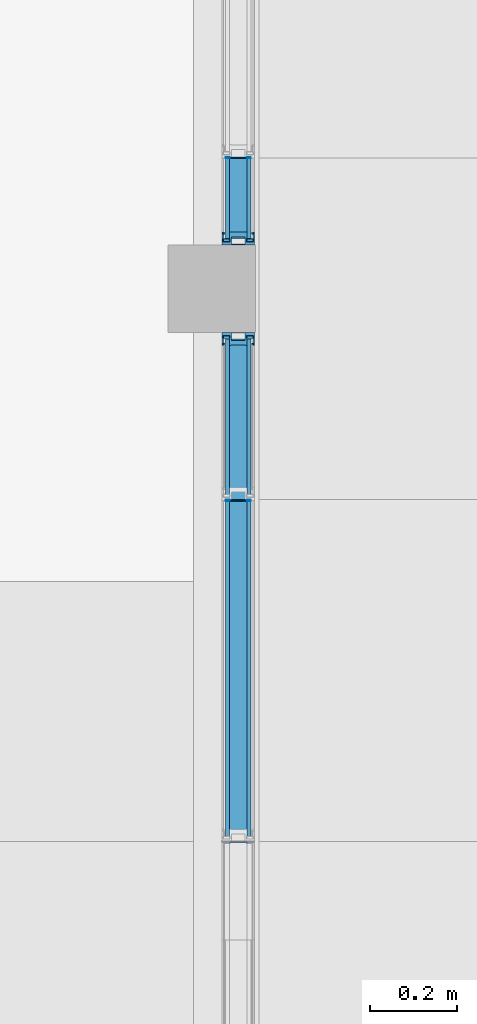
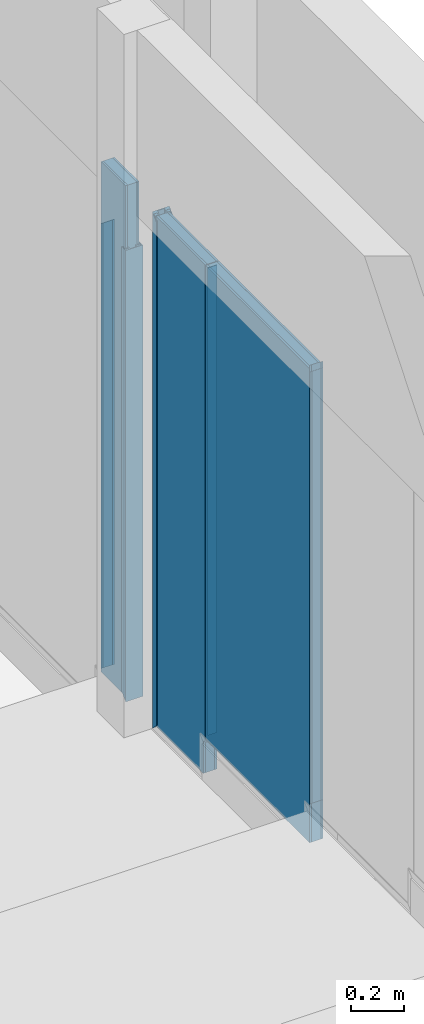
# One storey, part 30 of 65: 16 building element parts, 10 elements without a shape of their own.
"""IFC2X3 building model written with IfcOpenShell, lengths in millimetres."""

from ifc_helpers import new_model, entity, si_unit, converted_unit, derived_unit, money_unit, direction, frame, origin_with_axes, place, context, subcontext, project, spatial, faceted_brep, material, type_object, element, aggregate, save


model = new_model("IFC2X3")

# Units and contexts
model_context = context("Model", 3, precision=0.01, world=origin_with_axes(), true_north=direction((0.0, 1.0)))
body_context = subcontext(model_context, "Body", "Model", "MODEL_VIEW")
ifc_project = project(units=[si_unit("LENGTHUNIT", "METRE", prefix="MILLI"), si_unit("AREAUNIT", "SQUARE_METRE"), si_unit("VOLUMEUNIT", "CUBIC_METRE"), converted_unit("PLANEANGLEUNIT", "DEGREE", entity("IfcPlaneAngleMeasure", 0.0174532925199), si_unit("PLANEANGLEUNIT", "RADIAN"), dimensions=[0, 0, 0, 0, 0, 0, 0]), si_unit("SOLIDANGLEUNIT", "STERADIAN"), money_unit("EUR"), converted_unit("TIMEUNIT", "Year", entity("IfcTimeMeasure", 31556926.0), si_unit("TIMEUNIT", "SECOND"), dimensions=[0, 0, 1, 0, 0, 0, 0]), si_unit("MASSUNIT", "GRAM", prefix="KILO"), si_unit("THERMODYNAMICTEMPERATUREUNIT", "DEGREE_CELSIUS"), si_unit("LUMINOUSINTENSITYUNIT", "LUMEN"), si_unit("ENERGYUNIT", "JOULE", prefix="MEGA"), derived_unit("THERMALCONDUCTANCEUNIT", [(si_unit("POWERUNIT", "WATT"), 1), (si_unit("LENGTHUNIT", "METRE"), -1), (si_unit("THERMODYNAMICTEMPERATUREUNIT", "KELVIN"), -1)]), derived_unit("SPECIFICHEATCAPACITYUNIT", [(si_unit("ENERGYUNIT", "JOULE"), 1), (si_unit("MASSUNIT", "GRAM", prefix="KILO"), -1), (si_unit("THERMODYNAMICTEMPERATUREUNIT", "KELVIN"), -1)]), derived_unit("MASSDENSITYUNIT", [(si_unit("MASSUNIT", "GRAM", prefix="KILO"), 1), (si_unit("VOLUMEUNIT", "CUBIC_METRE"), -1)])], contexts=[model_context])

# Site, building, storey
site_placement = place(None, origin_with_axes())
site = spatial("IfcSite", under=ifc_project, at=site_placement, Name="Puškini 31, Narva", CompositionType="ELEMENT")
building_placement = place(site_placement, origin_with_axes())
building = spatial("IfcBuilding", under=site, at=building_placement, Name="Narva Riigigümnaasium", CompositionType="ELEMENT")
storey_placement = place(building_placement, frame((0.0, 0.0, -1320.0), z_axis=(0.0, 0.0, 1.0), x_axis=(1.0, 0.0, 0.0)))
storey = spatial("IfcBuildingStorey", under=building, at=storey_placement, Name="1.korrus -1.32", CompositionType="ELEMENT", Elevation=-1320.0)

# Curtain wall, plates, building element parts, members
curtain_wall_type = type_object("IfcCurtainWallType", Name="Curtain Wall Type", PredefinedType="NOTDEFINED")
curtain_wall_1_placement = place(storey_placement, frame((30362.9999948, 159591.499992, 330.0), z_axis=(0.0, 0.0, 1.0), x_axis=(1.0, 0.0, 0.0)))
curtain_wall_1 = element("IfcCurtainWall", 1, at=curtain_wall_1_placement, inside=storey, type_object=curtain_wall_type, Name="G-SKLF-03")
plate_type_1 = type_object("IfcPlateType", Name="Siseklaasfassaad - Klaas 780 x 2025 x 10", PredefinedType="CURTAIN_PANEL")
plate_1_placement = place(curtain_wall_1_placement, frame((0.0, 3054.42001235, 1079.99996631), z_axis=(0.0, 0.0, 1.0), x_axis=(0.0, -1.0, 0.0)))
plate_1 = element("IfcPlate", 2, at=plate_1_placement, type_object=plate_type_1, Name="G-SKLF-04-klaas", ObjectType="CURTAIN_PANEL")
ifc_material_1 = material(Name="VKR-05_Klaas")
building_element_part_1_placement = place(plate_1_placement, origin_with_axes())
building_element_part_1 = element("IfcBuildingElementPart", 3, at=building_element_part_1_placement, material=ifc_material_1, Name="VKR-05_Klaas", context=body_context, shape_type="Brep", body=[
    faceted_brep([(-467.579986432, -29.0, 1274.999943), (312.719991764, -29.0, 1274.999943), (312.719991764, -20.0, 1274.999943), (-467.579986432, -20.0, 1274.999943), (-467.579986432, -29.0, -899.999941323), (312.719991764, -29.0, -899.999941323), (312.719991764, -20.0, -899.999941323), (-467.579986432, -20.0, -899.999941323)], [[[0, 1, 2, 3]], [[0, 4, 5, 1]], [[1, 5, 6, 2]], [[3, 2, 6, 7]], [[4, 0, 3, 7]], [[5, 4, 7, 6]]]),
    faceted_brep([(-467.579986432, 20.0, 1274.999943), (312.719991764, 20.0, 1274.999943), (312.719991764, 29.0, 1274.999943), (-467.579986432, 29.0, 1274.999943), (-467.579986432, 20.0, -899.999941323), (312.719991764, 20.0, -899.999941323), (312.719991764, 29.0, -899.999941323), (-467.579986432, 29.0, -899.999941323)], [[[0, 1, 2, 3]], [[0, 4, 5, 1]], [[1, 5, 6, 2]], [[3, 2, 6, 7]], [[4, 0, 3, 7]], [[5, 4, 7, 6]]]),
])
ifc_material_2 = material(Name="VKR-06_Õhkvahe")
building_element_part_2_placement = place(plate_1_placement, origin_with_axes())
building_element_part_2 = element("IfcBuildingElementPart", 4, at=building_element_part_2_placement, material=ifc_material_2, Name="VKR-06_Õhkvahe", context=body_context, shape_type="Brep", body=[
    faceted_brep([(-467.579986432, -20.0, 1274.999943), (312.719991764, -20.0, 1274.999943), (312.719991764, 20.0, 1274.999943), (-467.579986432, 20.0, 1274.999943), (-467.579986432, -20.0, -899.999941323), (312.719991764, -20.0, -899.999941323), (312.719991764, 20.0, -899.999941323), (-467.579986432, 20.0, -899.999941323)], [[[0, 1, 2, 3]], [[0, 4, 5, 1]], [[1, 5, 6, 2]], [[3, 2, 6, 7]], [[4, 0, 3, 7]], [[5, 4, 7, 6]]]),
])
aggregate(plate_1, [building_element_part_1, building_element_part_2])
plate_type_2 = type_object("IfcPlateType", Name="Siseklaasfassaad - Klaas 369 x 2190 x 10", PredefinedType="CURTAIN_PANEL")
plate_2_placement = place(curtain_wall_1_placement, frame((0.0, 3677.50001371, 980.999971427), z_axis=(0.0, 0.0, 1.0), x_axis=(0.0, -1.0, 0.0)))
plate_2 = element("IfcPlate", 5, at=plate_2_placement, type_object=plate_type_2, Name="G-SKLF-05-klaas", ObjectType="CURTAIN_PANEL")
building_element_part_3_placement = place(plate_2_placement, origin_with_axes())
building_element_part_3 = element("IfcBuildingElementPart", 6, at=building_element_part_3_placement, material=ifc_material_1, Name="VKR-05_Klaas", context=body_context, shape_type="Brep", body=[
    faceted_brep([(-216.000071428, -29.0, 1373.99992908), (152.500011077, -29.0, 1373.99992908), (152.500011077, -20.0, 1373.99992908), (-216.000071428, -20.0, 1373.99992908), (-215.999930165, -29.0, -965.999945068), (138.999987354, -29.0, -965.999945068), (138.999987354, -29.0, -815.999964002), (152.500011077, -29.0, -815.999964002), (152.500011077, -20.0, -815.999964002), (138.999987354, -20.0, -815.999964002), (138.999987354, -20.0, -965.999945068), (-215.999930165, -20.0, -965.999945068)], [[[0, 1, 2, 3]], [[0, 4, 5, 6, 7, 1]], [[1, 7, 8, 2]], [[3, 2, 8, 9, 10, 11]], [[4, 0, 3, 11]], [[5, 4, 11, 10]], [[6, 5, 10, 9]], [[7, 6, 9, 8]]]),
    faceted_brep([(-216.000071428, 20.0, 1373.99992908), (152.500011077, 20.0, 1373.99992908), (152.500011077, 29.0, 1373.99992908), (-216.000071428, 29.0, 1373.99992908), (-215.999930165, 20.0, -965.999945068), (138.999987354, 20.0, -965.999945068), (138.999987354, 20.0, -815.999964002), (152.500011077, 20.0, -815.999964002), (152.500011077, 29.0, -815.999964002), (138.999987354, 29.0, -815.999964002), (138.999987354, 29.0, -965.999945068), (-215.999930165, 29.0, -965.999945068)], [[[0, 1, 2, 3]], [[0, 4, 5, 6, 7, 1]], [[1, 7, 8, 2]], [[3, 2, 8, 9, 10, 11]], [[4, 0, 3, 11]], [[5, 4, 11, 10]], [[6, 5, 10, 9]], [[7, 6, 9, 8]]]),
])
building_element_part_4_placement = place(plate_2_placement, origin_with_axes())
building_element_part_4 = element("IfcBuildingElementPart", 7, at=building_element_part_4_placement, material=ifc_material_2, Name="VKR-06_Õhkvahe", context=body_context, shape_type="Brep", body=[
    faceted_brep([(-216.000071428, -20.0, 1373.99992908), (152.500011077, -20.0, 1373.99992908), (152.500011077, 20.0, 1373.99992908), (-216.000071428, 20.0, 1373.99992908), (-215.999930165, -20.0, -965.999945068), (138.999987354, -20.0, -965.999945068), (138.999987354, -20.0, -815.999964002), (152.500011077, -20.0, -815.999964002), (152.500011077, 20.0, -815.999964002), (138.999987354, 20.0, -815.999964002), (138.999987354, 20.0, -965.999945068), (-215.999930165, 20.0, -965.999945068)], [[[0, 1, 2, 3]], [[0, 4, 5, 6, 7, 1]], [[1, 7, 8, 2]], [[3, 2, 8, 9, 10, 11]], [[4, 0, 3, 11]], [[5, 4, 11, 10]], [[6, 5, 10, 9]], [[7, 6, 9, 8]]]),
])
aggregate(plate_2, [building_element_part_3, building_element_part_4])
member_type_1 = type_object("IfcMemberType", Name="Siseklaasfassaad - Raam n2htamatu 3 x 29", PredefinedType="MULLION")
member_1_placement = place(curtain_wall_1_placement, frame((0.0, 2740.5, 329.999979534), z_axis=(0.0, 0.0, 1.0), x_axis=(0.0, -1.0, 0.0)))
member_1 = element("IfcMember", 8, at=member_1_placement, type_object=member_type_1, Name="G-SKLF-69-klaasidevaheline tihend", ObjectType="MULLION")
ifc_material_3 = material(Name="Klaas")
building_element_part_5_placement = place(member_1_placement, origin_with_axes())
building_element_part_5 = element("IfcBuildingElementPart", 9, at=building_element_part_5_placement, material=ifc_material_3, Name="Klaas", context=body_context, shape_type="Brep", body=[
    faceted_brep([(0.0, 29.0064496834, 2039.99993072), (0.0, 29.0064496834, 2009.99991142), (1.50001386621, 29.0064496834, 2009.99991142), (1.50001383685, 29.0064496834, 30.0000170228), (-1.4999861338, 29.0064496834, 30.0000170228), (-1.49998613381, 29.0064496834, 2009.99991145), (0.0, 20.0064497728, 2039.99993072), (0.0, 20.0064497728, 2009.99991142), (1.50001386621, 20.0064497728, 2009.99991142), (1.50001383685, 20.0064497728, 30.0000177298), (-1.4999861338, 20.0064497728, 30.0000177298), (-1.49998613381, 20.0064497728, 2009.99991145)], [[[0, 1, 2, 3, 4, 5]], [[1, 0, 6, 7]], [[8, 2, 1, 7]], [[2, 8, 9, 3]], [[3, 9, 10, 4]], [[11, 5, 4, 10]], [[0, 5, 11, 6]], [[6, 11, 10, 9, 8, 7]]]),
    faceted_brep([(0.0, -19.993550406, 2039.99993072), (0.0, -19.993550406, 2009.99991142), (1.50001386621, -19.993550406, 2009.99991142), (1.50001383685, -19.993550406, 30.0000208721), (-1.4999861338, -19.993550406, 30.0000208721), (-1.49998613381, -19.993550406, 2009.99991145), (0.0, -28.9935503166, 2039.99993072), (0.0, -28.9935503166, 2009.99991142), (1.50001386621, -28.9935503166, 2009.99991142), (1.50001383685, -28.9935503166, 30.0000215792), (-1.4999861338, -28.9935503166, 30.0000215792), (-1.49998613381, -28.9935503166, 2009.99991145)], [[[0, 1, 2, 3, 4, 5]], [[1, 0, 6, 7]], [[8, 2, 1, 7]], [[2, 8, 9, 3]], [[3, 9, 10, 4]], [[11, 5, 4, 10]], [[0, 5, 11, 6]], [[6, 11, 10, 9, 8, 7]]]),
])
building_element_part_6_placement = place(member_1_placement, origin_with_axes())
building_element_part_6 = element("IfcBuildingElementPart", 10, at=building_element_part_6_placement, material=ifc_material_2, Name="VKR-06_Õhkvahe", context=body_context, shape_type="Brep", body=[
    faceted_brep([(0.0, 20.0064496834, 2039.99993072), (0.0, 20.0064496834, 2009.99991142), (1.50001386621, 20.0064496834, 2009.99991142), (1.5000138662, 20.0064496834, 30.0000177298), (-1.4999861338, 20.0064496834, 30.0000177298), (-1.49998613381, 20.0064496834, 2009.99991145), (0.0, -19.9935503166, 2039.99993072), (0.0, -19.9935503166, 2009.99991142), (1.50001386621, -19.9935503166, 2009.99991142), (1.5000138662, -19.9935503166, 30.0000208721), (-1.4999861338, -19.9935503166, 30.0000208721), (-1.49998613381, -19.9935503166, 2009.99991145)], [[[0, 1, 2, 3, 4, 5]], [[1, 0, 6, 7]], [[8, 2, 1, 7]], [[2, 8, 9, 3]], [[3, 9, 10, 4]], [[11, 5, 4, 10]], [[0, 5, 11, 6]], [[6, 11, 10, 9, 8, 7]]]),
])
aggregate(member_1, [building_element_part_5, building_element_part_6])
member_type_2 = type_object("IfcMemberType", Name="3 x 29", PredefinedType="MULLION")
member_2_placement = place(curtain_wall_1_placement, frame((0.0, 3523.5, 165.000007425), z_axis=(0.0, 0.0, 1.0), x_axis=(0.0, -1.0, 0.0)))
member_2 = element("IfcMember", 11, at=member_2_placement, type_object=member_type_2, Name="G-SKLF-05-raam", ObjectType="MULLION")
building_element_part_7_placement = place(member_2_placement, origin_with_axes())
building_element_part_7 = element("IfcBuildingElementPart", 12, at=building_element_part_7_placement, material=ifc_material_3, Name="Klaas", context=body_context, shape_type="Brep", body=[
    faceted_brep([(1.5000138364, 20.0064497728, 30.0000193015), (1.5000138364, 20.0064497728, 2174.99990034), (-1.4999861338, 20.0064497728, 2174.99990034), (-1.4999861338, 20.0064497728, 30.0000193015), (1.5000138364, 29.0064496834, 30.0000193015), (1.5000138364, 29.0064496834, 2174.99990044), (-1.4999861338, 29.0064496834, 2174.99990044), (-1.4999861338, 29.0064496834, 30.0000193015)], [[[0, 1, 2, 3]], [[4, 5, 1, 0]], [[2, 1, 5, 6]], [[3, 2, 6, 7]], [[3, 7, 4, 0]], [[7, 6, 5, 4]]]),
    faceted_brep([(-1.4999861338, -28.9935503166, 30.0000193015), (-1.4999861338, -28.9935503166, 2174.99989983), (-1.4999861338, -19.993550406, 2174.99989993), (-1.4999861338, -19.993550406, 30.0000193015), (1.5000138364, -28.9935503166, 30.0000193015), (1.5000138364, -28.9935503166, 2174.99989983), (1.5000138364, -19.993550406, 2174.99989993), (1.5000138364, -19.993550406, 30.0000193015)], [[[0, 1, 2, 3]], [[4, 5, 1, 0]], [[2, 1, 5, 6]], [[3, 2, 6, 7]], [[3, 7, 4, 0]], [[7, 6, 5, 4]]]),
])
building_element_part_8_placement = place(member_2_placement, origin_with_axes())
building_element_part_8 = element("IfcBuildingElementPart", 13, at=building_element_part_8_placement, material=ifc_material_2, Name="VKR-06_Õhkvahe", context=body_context, shape_type="Brep", body=[
    faceted_brep([(-1.4999861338, -19.9935503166, 30.0000193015), (-1.4999861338, -19.9935503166, 2174.99989993), (-1.4999861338, 20.0064496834, 2174.99990034), (-1.4999861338, 20.0064496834, 30.0000193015), (1.5000138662, -19.9935503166, 30.0000193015), (1.5000138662, -19.9935503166, 2174.99989993), (1.5000138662, 20.0064496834, 2174.99990034), (1.5000138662, 20.0064496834, 30.0000193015)], [[[0, 1, 2, 3]], [[4, 5, 1, 0]], [[2, 1, 5, 6]], [[3, 2, 6, 7]], [[3, 7, 4, 0]], [[7, 6, 5, 4]]]),
])
aggregate(member_2, [building_element_part_7, building_element_part_8])
member_type_3 = type_object("IfcMemberType", Name="30 x 37", PredefinedType="MULLION")
member_3_placement = place(curtain_wall_1_placement, frame((0.0, 3908.49996428, 0.0), z_axis=(0.0, 5.90765636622e-08, 1.0), x_axis=(0.0, -1.0, 5.90765636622e-08)))
member_3 = element("IfcMember", 14, at=member_3_placement, type_object=member_type_3, Name="G-SKLF-24-raam", ObjectType="MULLION")
aggregate(curtain_wall_1, [member_1, member_2, member_3, plate_1, plate_2])
ifc_material_4 = material(Name="Klaasvill")
building_element_part_9_placement = place(member_3_placement, origin_with_axes())
building_element_part_9 = element("IfcBuildingElementPart", 15, at=building_element_part_9_placement, material=ifc_material_4, Name="Klaasvill", context=body_context, shape_type="Brep", body=[
    faceted_brep([(13.8499999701, 20.000000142, 13.8499991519), (13.8499999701, 20.000000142, 2356.14992221), (7.49999990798, 20.000000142, 2362.49992258), (7.49999990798, 20.000000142, 7.4999994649), (13.8499999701, 34.0161444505, 13.8499991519), (13.8499999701, 34.0161444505, 2356.14992221), (7.49999990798, 34.0161444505, 2362.49992258), (7.49999990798, 34.0161444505, 7.4999994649)], [[[0, 1, 2, 3]], [[4, 5, 1, 0]], [[2, 1, 5, 6]], [[3, 2, 6, 7]], [[3, 7, 4, 0]], [[7, 6, 5, 4]]]),
    faceted_brep([(25.004489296, 32.0307503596, 25.0044878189), (25.004489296, 32.0307503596, 2344.99543234), (24.987414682, 34.0161444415, 2345.01250695), (24.987414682, 34.0161444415, 24.9874132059), (25.742237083, 31.2930025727, 25.7422355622), (25.742237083, 31.2930025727, 2344.25768451), (26.7500193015, 31.0229681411, 2343.24990225), (27.75780152, 31.2930025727, 2342.24211998), (28.4955493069, 32.0307503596, 2341.50437216), (28.7655837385, 33.0385325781, 2341.23433771), (28.5126239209, 34.0161444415, 2341.48729754), (28.5126239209, 34.0161444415, 28.5126222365), (28.7655837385, 33.0385325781, 28.7655820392), (28.4955493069, 32.0307503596, 28.4955476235), (27.75780152, 31.2930025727, 27.7577998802), (26.7500193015, 31.0229681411, 26.7500177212)], [[[0, 1, 2, 3]], [[4, 5, 1, 0]], [[2, 1, 5, 6, 7, 8, 9, 10]], [[3, 2, 10, 11]], [[3, 11, 12, 13, 14, 15, 4, 0]], [[15, 6, 5, 4]], [[14, 7, 6, 15]], [[13, 8, 7, 14]], [[12, 9, 8, 13]], [[11, 10, 9, 12]]]),
    faceted_brep([(7.49999990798, -34.0161445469, 7.4999994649), (7.49999990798, -34.0161445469, 2362.49992258), (7.49999990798, -19.9999997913, 2362.49992258), (7.49999990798, -19.9999997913, 7.4999994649), (13.8499999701, -34.0161445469, 13.8499991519), (13.8499999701, -34.0161445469, 2356.14992221), (13.8499999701, -19.9999997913, 2356.14992221), (13.8499999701, -19.9999997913, 13.8499991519)], [[[0, 1, 2, 3]], [[4, 5, 1, 0]], [[2, 1, 5, 6]], [[3, 2, 6, 7]], [[3, 7, 4, 0]], [[7, 6, 5, 4]]]),
    faceted_brep([(24.987414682, -34.0161444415, 24.9874132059), (24.987414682, -34.0161444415, 2345.01250695), (25.004489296, -32.0307503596, 2344.99543234), (25.004489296, -32.0307503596, 25.0044878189), (28.5126239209, -34.0161444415, 28.5126222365), (28.5126239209, -34.0161444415, 2341.48729754), (28.7655837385, -33.0385325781, 2341.23433771), (28.4955493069, -32.0307503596, 2341.50437216), (27.75780152, -31.2930025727, 2342.24211998), (26.7500193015, -31.0229681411, 2343.24990225), (25.742237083, -31.2930025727, 2344.25768451), (25.742237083, -31.2930025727, 25.7422355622), (26.7500193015, -31.0229681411, 26.7500177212), (27.75780152, -31.2930025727, 27.7577998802), (28.4955493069, -32.0307503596, 28.4955476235), (28.7655837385, -33.0385325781, 28.7655820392)], [[[0, 1, 2, 3]], [[4, 5, 1, 0]], [[2, 1, 5, 6, 7, 8, 9, 10]], [[3, 2, 10, 11]], [[3, 11, 12, 13, 14, 15, 4, 0]], [[15, 6, 5, 4]], [[14, 7, 6, 15]], [[13, 8, 7, 14]], [[12, 9, 8, 13]], [[11, 10, 9, 12]]]),
])
ifc_material_5 = material(Name="Teras RAL7012")
building_element_part_10_placement = place(member_3_placement, origin_with_axes())
building_element_part_10 = element("IfcBuildingElementPart", 16, at=building_element_part_10_placement, material=ifc_material_5, Name="Teras RAL7012", context=body_context, shape_type="Brep", body=[
    faceted_brep([(29.5999996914, -17.0000000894, 29.5999979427), (29.5999996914, -17.0000000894, 2340.39992172), (0.0, -17.0000000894, 2369.99992285), (0.0, -17.0000000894, 0.0), (29.5999996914, 17.0000000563, 29.5999979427), (29.5999996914, 17.0000000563, 2340.39992172), (0.0, 17.0000000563, 2369.99992285), (1.9999999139, 15.0000001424, 2367.99992284), (18.7999996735, 15.0000001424, 2351.19992226), (18.7999996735, -15.0000001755, 2351.19992226), (1.9999999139, -15.0000001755, 2367.99992284), (0.0, 17.0000000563, 0.0), (1.9999999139, 15.0000001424, 1.99999979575), (1.9999999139, -15.0000001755, 1.99999979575), (18.7999996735, -15.0000001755, 18.7999985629), (18.7999996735, 15.0000001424, 18.7999985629)], [[[0, 1, 2, 3]], [[4, 5, 1, 0]], [[2, 1, 5, 6], [7, 8, 9, 10]], [[3, 2, 6, 11]], [[3, 11, 4, 0], [12, 13, 14, 15]], [[11, 6, 5, 4]], [[15, 8, 7, 12]], [[14, 9, 8, 15]], [[13, 10, 9, 14]], [[12, 7, 10, 13]]]),
    faceted_brep([(29.5999996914, 17.0000000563, 29.5999979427), (29.5999996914, 17.0000000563, 2340.39992172), (0.0, 17.0, 2369.99992285), (0.0, 17.0, 0.0), (30.0000193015, 17.0, 30.0000175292), (30.0000193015, 17.0, 2339.99990209), (30.0000193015, 20.0, 2339.99990209), (13.8499999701, 20.000000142, 2356.14992221), (7.49999999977, 20.0, 2362.49992248), (7.49999999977, 34.0161444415, 2362.49992248), (13.8499999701, 34.0161444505, 2356.14992221), (24.987414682, 34.0161444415, 2345.01250695), (28.5126239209, 34.0161444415, 2341.48729754), (30.0000193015, 34.0161444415, 2339.99990209), (30.0000193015, 37.0, 2339.99990209), (0.0, 37.0, 2369.99992285), (0.0, 37.0, 0.0), (30.0000193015, 37.0, 30.0000175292), (30.0000193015, 34.0161444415, 30.0000175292), (28.5126239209, 34.0161444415, 28.5126222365), (24.987414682, 34.0161444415, 24.9874132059), (13.8499999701, 34.0161444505, 13.8499991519), (7.49999999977, 34.0161444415, 7.49999955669), (7.49999999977, 20.0, 7.49999955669), (13.8499999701, 20.000000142, 13.8499991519), (30.0000193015, 20.0, 30.0000175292)], [[[0, 1, 2, 3]], [[4, 5, 1, 0]], [[2, 1, 5, 6, 7, 8, 9, 10, 11, 12, 13, 14, 15]], [[3, 2, 15, 16]], [[3, 16, 17, 18, 19, 20, 21, 22, 23, 24, 25, 4, 0]], [[25, 6, 5, 4]], [[24, 7, 6, 25]], [[23, 8, 7, 24]], [[22, 9, 8, 23]], [[21, 10, 9, 22]], [[20, 11, 10, 21]], [[19, 12, 11, 20]], [[18, 13, 12, 19]], [[17, 14, 13, 18]], [[16, 15, 14, 17]]]),
    faceted_brep([(0.0, -37.0, 0.0), (0.0, -37.0, 2369.99992285), (0.0, -17.0, 2369.99992285), (0.0, -17.0, 0.0), (30.0000193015, -37.0, 30.0000175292), (30.0000193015, -37.0, 2339.99990209), (30.0000193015, -34.0161444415, 2339.99990209), (28.5126239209, -34.0161444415, 2341.48729754), (24.987414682, -34.0161444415, 2345.01250695), (13.8499999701, -34.0161445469, 2356.14992221), (7.49999999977, -34.0161444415, 2362.49992248), (7.49999999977, -20.0, 2362.49992248), (13.8499999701, -19.9999997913, 2356.14992221), (30.0000193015, -20.0, 2339.99990209), (30.0000193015, -17.0, 2339.99990209), (29.5999996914, -17.0000000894, 2340.39992172), (29.5999996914, -17.0000000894, 29.5999979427), (30.0000193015, -17.0, 30.0000175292), (30.0000193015, -20.0, 30.0000175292), (13.8499999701, -19.9999997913, 13.8499991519), (7.49999999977, -20.0, 7.49999955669), (7.49999999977, -34.0161444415, 7.49999955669), (13.8499999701, -34.0161445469, 13.8499991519), (24.987414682, -34.0161444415, 24.9874132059), (28.5126239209, -34.0161444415, 28.5126222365), (30.0000193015, -34.0161444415, 30.0000175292)], [[[0, 1, 2, 3]], [[4, 5, 1, 0]], [[2, 1, 5, 6, 7, 8, 9, 10, 11, 12, 13, 14, 15]], [[3, 2, 15, 16]], [[3, 16, 17, 18, 19, 20, 21, 22, 23, 24, 25, 4, 0]], [[25, 6, 5, 4]], [[24, 7, 6, 25]], [[23, 8, 7, 24]], [[22, 9, 8, 23]], [[21, 10, 9, 22]], [[20, 11, 10, 21]], [[19, 12, 11, 20]], [[18, 13, 12, 19]], [[17, 14, 13, 18]], [[16, 15, 14, 17]]]),
])
aggregate(member_3, [building_element_part_9, building_element_part_10])

# Curtain wall, plate, building element parts, members
curtain_wall_2_placement = place(storey_placement, frame((30362.9999988, 164066.428557, -5.96047033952e-06), z_axis=(0.0, 0.0, 1.0), x_axis=(1.0, 0.0, 0.0)))
curtain_wall_2 = element("IfcCurtainWall", 17, at=curtain_wall_2_placement, inside=storey, type_object=curtain_wall_type, Name="G-SKLF-04")
plate_type_3 = type_object("IfcPlateType", Name="Siseklaasfassaad - Klaas 183 x 285 x 10", PredefinedType="CURTAIN_PANEL")
plate_3_placement = place(curtain_wall_2_placement, frame((0.0, -266.528581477, 1810.00000948), z_axis=(0.0, 0.0, 1.0), x_axis=(0.0, -1.0, 0.0)))
plate_3 = element("IfcPlate", 18, at=plate_3_placement, type_object=plate_type_3, Name="G-SKLF-04-klaas", ObjectType="CURTAIN_PANEL")
building_element_part_11_placement = place(plate_3_placement, origin_with_axes())
building_element_part_11 = element("IfcBuildingElementPart", 19, at=building_element_part_11_placement, material=ifc_material_1, Name="VKR-05_Klaas", context=body_context, shape_type="Brep", body=[
    faceted_brep([(-98.4000221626, -29.0, 874.99998556), (84.899996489, -29.0, 874.99998556), (84.899996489, -20.0, 874.99998556), (-98.4000221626, -20.0, 874.99998556), (-98.4000221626, -29.0, -1464.99998204), (84.899996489, -29.0, -1464.99998204), (84.899996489, -20.0, -1464.99998204), (-98.4000221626, -20.0, -1464.99998204)], [[[0, 1, 2, 3]], [[0, 4, 5, 1]], [[1, 5, 6, 2]], [[3, 2, 6, 7]], [[4, 0, 3, 7]], [[5, 4, 7, 6]]]),
    faceted_brep([(-98.4000221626, 20.0, 874.99998556), (84.899996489, 20.0, 874.99998556), (84.899996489, 29.0, 874.99998556), (-98.4000221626, 29.0, 874.99998556), (-98.4000221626, 20.0, -1464.99998204), (84.899996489, 20.0, -1464.99998204), (84.899996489, 29.0, -1464.99998204), (-98.4000221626, 29.0, -1464.99998204)], [[[0, 1, 2, 3]], [[0, 4, 5, 1]], [[1, 5, 6, 2]], [[3, 2, 6, 7]], [[4, 0, 3, 7]], [[5, 4, 7, 6]]]),
])
building_element_part_12_placement = place(plate_3_placement, origin_with_axes())
building_element_part_12 = element("IfcBuildingElementPart", 20, at=building_element_part_12_placement, material=ifc_material_2, Name="VKR-06_Õhkvahe", context=body_context, shape_type="Brep", body=[
    faceted_brep([(-98.4000221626, -20.0, 874.99998556), (84.899996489, -20.0, 874.99998556), (84.899996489, 20.0, 874.99998556), (-98.4000221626, 20.0, 874.99998556), (-98.4000221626, -20.0, -1464.99998204), (84.899996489, -20.0, -1464.99998204), (84.899996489, 20.0, -1464.99998204), (-98.4000221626, 20.0, -1464.99998204)], [[[0, 1, 2, 3]], [[0, 4, 5, 1]], [[1, 5, 6, 2]], [[3, 2, 6, 7]], [[4, 0, 3, 7]], [[5, 4, 7, 6]]]),
])
aggregate(plate_3, [building_element_part_11, building_element_part_12])
member_4_placement = place(curtain_wall_2_placement, frame((0.0, -166.62855803, 330.000000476), z_axis=(0.0, 0.0, 1.0), x_axis=(0.0, -1.0, 0.0)))
member_4 = element("IfcMember", 21, at=member_4_placement, type_object=member_type_1, Name="G-SKLF-04-klasidevaheline tihend", ObjectType="MULLION")
building_element_part_13_placement = place(member_4_placement, origin_with_axes())
building_element_part_13 = element("IfcBuildingElementPart", 22, at=building_element_part_13_placement, material=ifc_material_3, Name="Klaas", context=body_context, shape_type="Brep", body=[
    faceted_brep([(1.5000138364, 20.0064497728, 30.0000193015), (1.5000138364, 20.0064497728, 2070.00000548), (-1.4999861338, 20.0064497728, 2070.00000548), (-1.4999861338, 20.0064497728, 30.0000193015), (1.5000138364, 29.0064496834, 30.0000193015), (1.5000138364, 29.0064496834, 2070.00000548), (-1.4999861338, 29.0064496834, 2070.00000548), (-1.4999861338, 29.0064496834, 30.0000193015)], [[[0, 1, 2, 3]], [[4, 5, 1, 0]], [[2, 1, 5, 6]], [[3, 2, 6, 7]], [[3, 7, 4, 0]], [[7, 6, 5, 4]]]),
    faceted_brep([(-1.4999861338, -28.9935503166, 30.0000193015), (-1.4999861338, -28.9935503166, 2070.00000548), (-1.4999861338, -19.993550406, 2070.00000548), (-1.4999861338, -19.993550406, 30.0000193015), (1.5000138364, -28.9935503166, 30.0000193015), (1.5000138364, -28.9935503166, 2070.00000548), (1.5000138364, -19.993550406, 2070.00000548), (1.5000138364, -19.993550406, 30.0000193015)], [[[0, 1, 2, 3]], [[4, 5, 1, 0]], [[2, 1, 5, 6]], [[3, 2, 6, 7]], [[3, 7, 4, 0]], [[7, 6, 5, 4]]]),
])
building_element_part_14_placement = place(member_4_placement, origin_with_axes())
building_element_part_14 = element("IfcBuildingElementPart", 23, at=building_element_part_14_placement, material=ifc_material_2, Name="VKR-06_Õhkvahe", context=body_context, shape_type="Brep", body=[
    faceted_brep([(-1.4999861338, -19.9935503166, 30.0000193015), (-1.4999861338, -19.9935503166, 2070.00000548), (-1.4999861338, 20.0064496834, 2070.00000548), (-1.4999861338, 20.0064496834, 30.0000193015), (1.5000138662, -19.9935503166, 30.0000193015), (1.5000138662, -19.9935503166, 2070.00000548), (1.5000138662, 20.0064496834, 2070.00000548), (1.5000138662, 20.0064496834, 30.0000193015)], [[[0, 1, 2, 3]], [[4, 5, 1, 0]], [[2, 1, 5, 6]], [[3, 2, 6, 7]], [[3, 7, 4, 0]], [[7, 6, 5, 4]]]),
])
aggregate(member_4, [building_element_part_13, building_element_part_14])
member_5_placement = place(curtain_wall_2_placement, frame((0.0, -366.428604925, 2400.00000596), z_axis=(0.0, 0.0, -1.0), x_axis=(0.0, 1.0, 0.0)))
member_5 = element("IfcMember", 24, at=member_5_placement, type_object=member_type_3, Name="G-SKLF-39-raam", ObjectType="MULLION")
aggregate(curtain_wall_2, [member_4, member_5, plate_3])
building_element_part_15_placement = place(member_5_placement, origin_with_axes())
building_element_part_15 = element("IfcBuildingElementPart", 25, at=building_element_part_15_placement, material=ifc_material_4, Name="Klaasvill", context=body_context, shape_type="Brep", body=[
    faceted_brep([(7.49999990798, 20.000000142, 0.0), (13.8499999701, 20.000000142, 0.0), (13.8499999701, 20.000000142, 2056.15000551), (7.49999990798, 20.000000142, 2062.50000558), (7.49999990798, 34.0161444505, 0.0), (13.8499999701, 34.0161444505, 0.0), (13.8499999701, 34.0161444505, 2056.15000551), (7.49999990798, 34.0161444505, 2062.50000558)], [[[0, 1, 2, 3]], [[0, 4, 5, 1]], [[1, 5, 6, 2]], [[3, 2, 6, 7]], [[4, 0, 3, 7]], [[5, 4, 7, 6]]]),
    faceted_brep([(24.987414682, 34.0161444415, 0.0), (25.004489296, 32.0307503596, 0.0), (25.004489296, 32.0307503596, 2044.99551619), (24.987414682, 34.0161444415, 2045.0125908), (28.5126239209, 34.0161444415, 0.0), (28.7655837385, 33.0385325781, 0.0), (28.4955493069, 32.0307503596, 0.0), (27.75780152, 31.2930025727, 0.0), (26.7500193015, 31.0229681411, 0.0), (25.742237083, 31.2930025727, 0.0), (25.742237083, 31.2930025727, 2044.2577684), (26.7500193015, 31.0229681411, 2043.24998618), (27.75780152, 31.2930025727, 2042.24220396), (28.4955493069, 32.0307503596, 2041.50445618), (28.7655837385, 33.0385325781, 2041.23442175), (28.5126239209, 34.0161444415, 2041.48738156)], [[[0, 1, 2, 3]], [[0, 4, 5, 6, 7, 8, 9, 1]], [[1, 9, 10, 2]], [[3, 2, 10, 11, 12, 13, 14, 15]], [[4, 0, 3, 15]], [[5, 4, 15, 14]], [[6, 5, 14, 13]], [[7, 6, 13, 12]], [[8, 7, 12, 11]], [[9, 8, 11, 10]]]),
    faceted_brep([(7.49999990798, -19.9999997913, 0.0), (7.49999990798, -34.0161445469, 0.0), (7.49999990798, -34.0161445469, 2062.50000558), (7.49999990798, -19.9999997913, 2062.50000558), (13.8499999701, -19.9999997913, 0.0), (13.8499999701, -34.0161445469, 0.0), (13.8499999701, -34.0161445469, 2056.15000551), (13.8499999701, -19.9999997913, 2056.15000551)], [[[0, 1, 2, 3]], [[0, 4, 5, 1]], [[1, 5, 6, 2]], [[3, 2, 6, 7]], [[4, 0, 3, 7]], [[5, 4, 7, 6]]]),
    faceted_brep([(25.004489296, -32.0307503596, 0.0), (24.987414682, -34.0161444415, 0.0), (24.987414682, -34.0161444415, 2045.0125908), (25.004489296, -32.0307503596, 2044.99551619), (25.742237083, -31.2930025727, 0.0), (26.7500193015, -31.0229681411, 0.0), (27.75780152, -31.2930025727, 0.0), (28.4955493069, -32.0307503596, 0.0), (28.7655837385, -33.0385325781, 0.0), (28.5126239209, -34.0161444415, 0.0), (28.5126239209, -34.0161444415, 2041.48738156), (28.7655837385, -33.0385325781, 2041.23442175), (28.4955493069, -32.0307503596, 2041.50445618), (27.75780152, -31.2930025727, 2042.24220396), (26.7500193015, -31.0229681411, 2043.24998618), (25.742237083, -31.2930025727, 2044.2577684)], [[[0, 1, 2, 3]], [[0, 4, 5, 6, 7, 8, 9, 1]], [[1, 9, 10, 2]], [[3, 2, 10, 11, 12, 13, 14, 15]], [[4, 0, 3, 15]], [[5, 4, 15, 14]], [[6, 5, 14, 13]], [[7, 6, 13, 12]], [[8, 7, 12, 11]], [[9, 8, 11, 10]]]),
])
building_element_part_16_placement = place(member_5_placement, origin_with_axes())
building_element_part_16 = element("IfcBuildingElementPart", 26, at=building_element_part_16_placement, material=ifc_material_5, Name="Teras RAL7012", context=body_context, shape_type="Brep", body=[
    faceted_brep([(0.0, -17.0000000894, 0.0), (29.5999996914, -17.0000000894, 0.0), (29.5999996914, -17.0000000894, 2040.40000579), (0.0, -17.0000000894, 2070.00000548), (0.0, 17.0000000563, 0.0), (29.5999996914, 17.0000000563, 0.0), (1.9999999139, 15.0000001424, 0.0), (1.9999999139, -15.0000001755, 0.0), (18.7999996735, -15.0000001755, 0.0), (18.7999996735, 15.0000001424, 0.0), (29.5999996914, 17.0000000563, 2040.40000579), (0.0, 17.0000000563, 2070.00000548), (1.9999999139, 15.0000001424, 2068.00000557), (18.7999996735, 15.0000001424, 2051.20000581), (18.7999996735, -15.0000001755, 2051.20000581), (1.9999999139, -15.0000001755, 2068.00000557)], [[[0, 1, 2, 3]], [[0, 4, 5, 1], [6, 7, 8, 9]], [[1, 5, 10, 2]], [[3, 2, 10, 11], [12, 13, 14, 15]], [[4, 0, 3, 11]], [[5, 4, 11, 10]], [[7, 6, 12, 15]], [[8, 7, 15, 14]], [[9, 8, 14, 13]], [[6, 9, 13, 12]]]),
    faceted_brep([(0.0, 17.0, 0.0), (29.5999996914, 17.0000000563, 0.0), (29.5999996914, 17.0000000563, 2040.40000579), (0.0, 17.0, 2070.00000548), (0.0, 37.0, 0.0), (30.0000193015, 37.0, 0.0), (30.0000193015, 34.0161444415, 0.0), (28.5126239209, 34.0161444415, 0.0), (24.987414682, 34.0161444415, 0.0), (13.8499999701, 34.0161444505, 0.0), (7.49999999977, 34.0161444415, 0.0), (7.49999999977, 20.0, 0.0), (13.8499999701, 20.000000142, 0.0), (30.0000193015, 20.0, 0.0), (30.0000193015, 17.0, 0.0), (30.0000193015, 17.0, 2039.99998618), (30.0000193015, 20.0, 2039.99998618), (13.8499999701, 20.000000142, 2056.15000551), (7.49999999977, 20.0, 2062.50000548), (7.49999999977, 34.0161444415, 2062.50000548), (13.8499999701, 34.0161444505, 2056.15000551), (24.987414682, 34.0161444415, 2045.0125908), (28.5126239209, 34.0161444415, 2041.48738156), (30.0000193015, 34.0161444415, 2039.99998618), (30.0000193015, 37.0, 2039.99998618), (0.0, 37.0, 2070.00000548)], [[[0, 1, 2, 3]], [[0, 4, 5, 6, 7, 8, 9, 10, 11, 12, 13, 14, 1]], [[1, 14, 15, 2]], [[3, 2, 15, 16, 17, 18, 19, 20, 21, 22, 23, 24, 25]], [[4, 0, 3, 25]], [[5, 4, 25, 24]], [[6, 5, 24, 23]], [[7, 6, 23, 22]], [[8, 7, 22, 21]], [[9, 8, 21, 20]], [[10, 9, 20, 19]], [[11, 10, 19, 18]], [[12, 11, 18, 17]], [[13, 12, 17, 16]], [[14, 13, 16, 15]]]),
    faceted_brep([(0.0, -17.0, 0.0), (0.0, -37.0, 0.0), (0.0, -37.0, 2070.00000548), (0.0, -17.0, 2070.00000548), (29.5999996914, -17.0000000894, 0.0), (30.0000193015, -17.0, 0.0), (30.0000193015, -20.0, 0.0), (13.8499999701, -19.9999997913, 0.0), (7.49999999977, -20.0, 0.0), (7.49999999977, -34.0161444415, 0.0), (13.8499999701, -34.0161445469, 0.0), (24.987414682, -34.0161444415, 0.0), (28.5126239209, -34.0161444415, 0.0), (30.0000193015, -34.0161444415, 0.0), (30.0000193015, -37.0, 0.0), (30.0000193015, -37.0, 2039.99998618), (30.0000193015, -34.0161444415, 2039.99998618), (28.5126239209, -34.0161444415, 2041.48738156), (24.987414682, -34.0161444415, 2045.0125908), (13.8499999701, -34.0161445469, 2056.15000551), (7.49999999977, -34.0161444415, 2062.50000548), (7.49999999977, -20.0, 2062.50000548), (13.8499999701, -19.9999997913, 2056.15000551), (30.0000193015, -20.0, 2039.99998618), (30.0000193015, -17.0, 2039.99998618), (29.5999996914, -17.0000000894, 2040.40000579)], [[[0, 1, 2, 3]], [[0, 4, 5, 6, 7, 8, 9, 10, 11, 12, 13, 14, 1]], [[1, 14, 15, 2]], [[3, 2, 15, 16, 17, 18, 19, 20, 21, 22, 23, 24, 25]], [[4, 0, 3, 25]], [[5, 4, 25, 24]], [[6, 5, 24, 23]], [[7, 6, 23, 22]], [[8, 7, 22, 21]], [[9, 8, 21, 20]], [[10, 9, 20, 19]], [[11, 10, 19, 18]], [[12, 11, 18, 17]], [[13, 12, 17, 16]], [[14, 13, 16, 15]]]),
])
aggregate(member_5, [building_element_part_15, building_element_part_16])

save(model, "model.ifc")
